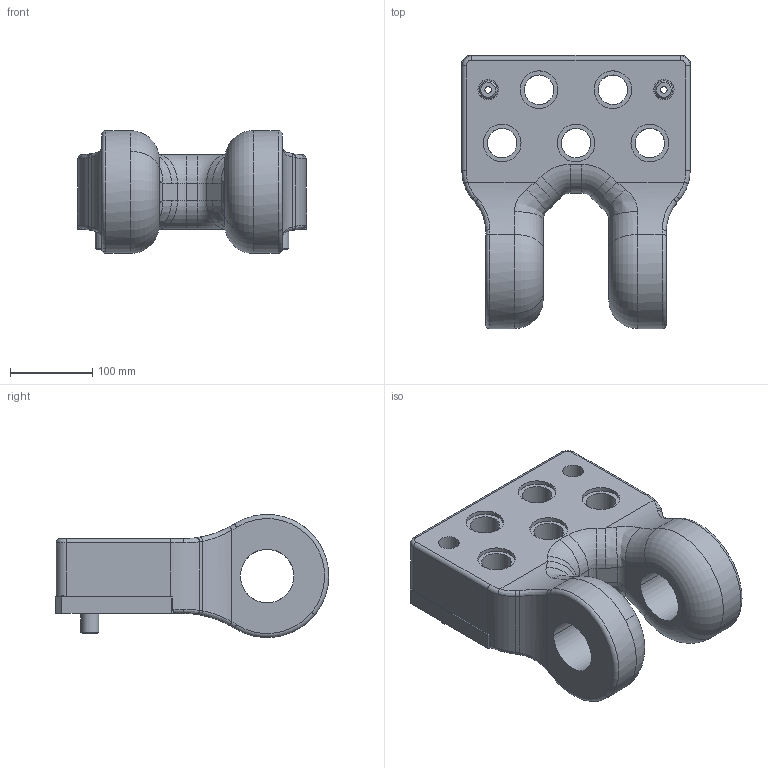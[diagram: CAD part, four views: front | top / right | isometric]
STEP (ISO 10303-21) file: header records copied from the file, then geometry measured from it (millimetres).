
FILE_DESCRIPTION(('CATIA V5 STEP Exchange'),'2;1');
FILE_NAME('C:\Users\Utente\Desktop\3D files 395S\395S-12500.stp','2020-04-10T05:46:39+00:00',('none'),('none'),'CATIA Version 5 Release 20 GA (IN-10)','CATIA V5 STEP AP203','none');
FILE_SCHEMA(('CONFIG_CONTROL_DESIGN'));
Length unit declared in the file: millimetre
Products named in the file (1): 395S-12500
Bounding box: 280 x 332.98 x 149.66 mm (x, y, z)
Volume: 5876115.5 mm3; surface area: 357443.6 mm2
Topology: 3 solids, 3 shells, 164 faces, 392 edges, 245 vertices
Faces by surface type: cylinder 67, plane 39, torus 26, bspline 20, cone 12
Entity records: 6353 total; most frequent: CARTESIAN_POINT 2789, ORIENTED_EDGE 778, DIRECTION 566, EDGE_CURVE 389, AXIS2_PLACEMENT_3D 300, VERTEX_POINT 238, EDGE_LOOP 193, CIRCLE 166
